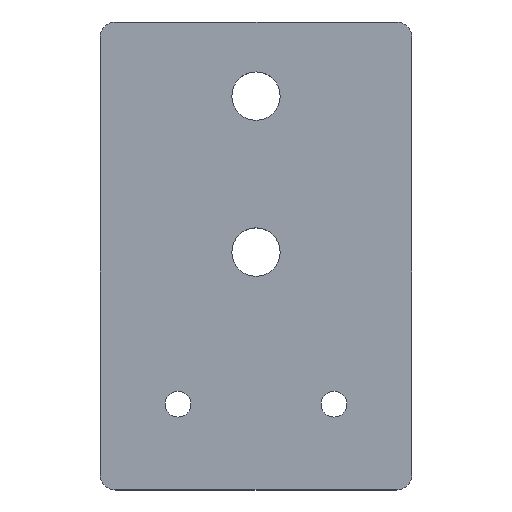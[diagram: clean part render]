
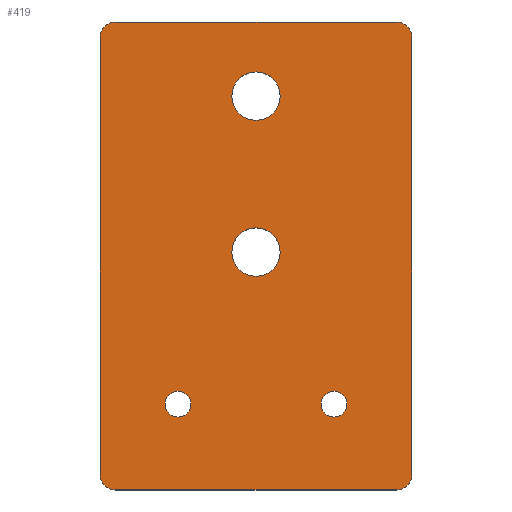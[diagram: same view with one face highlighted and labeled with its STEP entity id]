
A CAD part, top view. The second image highlights one B-rep face of the part: STEP entity #419.
In plain terms, the highlighted planar face has unit normal (0, 0, 1).
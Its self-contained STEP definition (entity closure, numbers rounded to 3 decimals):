
#5 = DIRECTION ( 'NONE',  ( 0., 0., -1. ) ) ;
#10 = CARTESIAN_POINT ( 'NONE',  ( 0., 50.5, 4. ) ) ;
#11 = CIRCLE ( 'NONE', #387, 2. ) ;
#18 = ORIENTED_EDGE ( 'NONE', *, *, #571, .T. ) ;
#20 = EDGE_CURVE ( 'NONE', #259, #541, #372, .T. ) ;
#22 = FACE_BOUND ( 'NONE', #131, .T. ) ;
#24 = CARTESIAN_POINT ( 'NONE',  ( 0., 0., 4. ) ) ;
#25 = EDGE_LOOP ( 'NONE', ( #18, #428 ) ) ;
#28 = DIRECTION ( 'NONE',  ( 0., 0., 1. ) ) ;
#32 = AXIS2_PLACEMENT_3D ( 'NONE', #10, #255, #421 ) ;
#39 = EDGE_CURVE ( 'NONE', #576, #144, #526, .T. ) ;
#47 = CARTESIAN_POINT ( 'NONE',  ( -18., 58., 4. ) ) ;
#53 = CARTESIAN_POINT ( 'NONE',  ( 11.65, 11., 4. ) ) ;
#54 = AXIS2_PLACEMENT_3D ( 'NONE', #657, #191, #609 ) ;
#56 = CARTESIAN_POINT ( 'NONE',  ( 3.1, 50.5, 4. ) ) ;
#67 = AXIS2_PLACEMENT_3D ( 'NONE', #283, #443, #644 ) ;
#68 = ORIENTED_EDGE ( 'NONE', *, *, #228, .T. ) ;
#69 = FACE_BOUND ( 'NONE', #201, .T. ) ;
#86 = ORIENTED_EDGE ( 'NONE', *, *, #506, .T. ) ;
#89 = EDGE_LOOP ( 'NONE', ( #565, #86, #187, #223, #503, #406, #434, #342 ) ) ;
#98 = AXIS2_PLACEMENT_3D ( 'NONE', #24, #28, #440 ) ;
#103 = VERTEX_POINT ( 'NONE', #552 ) ;
#109 = CARTESIAN_POINT ( 'NONE',  ( -18., 2., 4. ) ) ;
#119 = CARTESIAN_POINT ( 'NONE',  ( 10., 11., 4. ) ) ;
#127 = VECTOR ( 'NONE', #183, 1000. ) ;
#128 = LINE ( 'NONE', #377, #629 ) ;
#131 = EDGE_LOOP ( 'NONE', ( #660, #184 ) ) ;
#140 = VERTEX_POINT ( 'NONE', #673 ) ;
#144 = VERTEX_POINT ( 'NONE', #512 ) ;
#155 = ORIENTED_EDGE ( 'NONE', *, *, #527, .T. ) ;
#162 = DIRECTION ( 'NONE',  ( 1., 0., 0. ) ) ;
#171 = EDGE_CURVE ( 'NONE', #144, #177, #366, .T. ) ;
#176 = DIRECTION ( 'NONE',  ( 0., 0., -1. ) ) ;
#177 = VERTEX_POINT ( 'NONE', #265 ) ;
#178 = LINE ( 'NONE', #394, #127 ) ;
#183 = DIRECTION ( 'NONE',  ( 1., 0., 0. ) ) ;
#184 = ORIENTED_EDGE ( 'NONE', *, *, #517, .F. ) ;
#185 = DIRECTION ( 'NONE',  ( 1., 0., 0. ) ) ;
#187 = ORIENTED_EDGE ( 'NONE', *, *, #272, .T. ) ;
#188 = AXIS2_PLACEMENT_3D ( 'NONE', #431, #453, #236 ) ;
#191 = DIRECTION ( 'NONE',  ( 0., 0., 1. ) ) ;
#194 = DIRECTION ( 'NONE',  ( -1., 0., 0. ) ) ;
#196 = DIRECTION ( 'NONE',  ( 1., 0., 0. ) ) ;
#198 = CIRCLE ( 'NONE', #672, 1.65 ) ;
#201 = EDGE_LOOP ( 'NONE', ( #437, #535 ) ) ;
#202 = EDGE_CURVE ( 'NONE', #658, #637, #128, .T. ) ;
#203 = CARTESIAN_POINT ( 'NONE',  ( 0., 50.5, 4. ) ) ;
#206 = CARTESIAN_POINT ( 'NONE',  ( -20., 2., 4. ) ) ;
#210 = VERTEX_POINT ( 'NONE', #273 ) ;
#211 = DIRECTION ( 'NONE',  ( 0., 0., 1. ) ) ;
#213 = DIRECTION ( 'NONE',  ( 0., 0., 1. ) ) ;
#219 = CARTESIAN_POINT ( 'NONE',  ( 20., 0., 4. ) ) ;
#223 = ORIENTED_EDGE ( 'NONE', *, *, #39, .T. ) ;
#228 = EDGE_CURVE ( 'NONE', #281, #103, #586, .T. ) ;
#235 = DIRECTION ( 'NONE',  ( 0., 0., -1. ) ) ;
#236 = DIRECTION ( 'NONE',  ( -1., 0., 0. ) ) ;
#239 = CARTESIAN_POINT ( 'NONE',  ( 8.35, 11., 4. ) ) ;
#255 = DIRECTION ( 'NONE',  ( 0., 0., 1. ) ) ;
#258 = CARTESIAN_POINT ( 'NONE',  ( 18., 60., 4. ) ) ;
#259 = VERTEX_POINT ( 'NONE', #292 ) ;
#265 = CARTESIAN_POINT ( 'NONE',  ( 20., 58., 4. ) ) ;
#270 = DIRECTION ( 'NONE',  ( 0., 1., 0. ) ) ;
#271 = FACE_BOUND ( 'NONE', #652, .T. ) ;
#272 = EDGE_CURVE ( 'NONE', #210, #576, #178, .T. ) ;
#273 = CARTESIAN_POINT ( 'NONE',  ( -18., 0., 4. ) ) ;
#275 = VERTEX_POINT ( 'NONE', #239 ) ;
#276 = FACE_OUTER_BOUND ( 'NONE', #89, .T. ) ;
#281 = VERTEX_POINT ( 'NONE', #538 ) ;
#283 = CARTESIAN_POINT ( 'NONE',  ( 18., 58., 4. ) ) ;
#288 = AXIS2_PLACEMENT_3D ( 'NONE', #203, #213, #162 ) ;
#292 = CARTESIAN_POINT ( 'NONE',  ( -8.35, 11., 4. ) ) ;
#300 = VECTOR ( 'NONE', #531, 1000. ) ;
#304 = CARTESIAN_POINT ( 'NONE',  ( 0., 60., 4. ) ) ;
#307 = CARTESIAN_POINT ( 'NONE',  ( -20., 58., 4. ) ) ;
#336 = CIRCLE ( 'NONE', #32, 3.1 ) ;
#338 = EDGE_CURVE ( 'NONE', #638, #275, #198, .T. ) ;
#342 = ORIENTED_EDGE ( 'NONE', *, *, #348, .T. ) ;
#348 = EDGE_CURVE ( 'NONE', #140, #637, #11, .T. ) ;
#354 = DIRECTION ( 'NONE',  ( 1., 0., 0. ) ) ;
#356 = DIRECTION ( 'NONE',  ( 0., 0., -1. ) ) ;
#358 = CIRCLE ( 'NONE', #67, 2. ) ;
#364 = DIRECTION ( 'NONE',  ( 1., 0., 0. ) ) ;
#366 = LINE ( 'NONE', #219, #300 ) ;
#372 = CIRCLE ( 'NONE', #454, 1.65 ) ;
#377 = CARTESIAN_POINT ( 'NONE',  ( -20., 0., 4. ) ) ;
#386 = CIRCLE ( 'NONE', #188, 1.65 ) ;
#387 = AXIS2_PLACEMENT_3D ( 'NONE', #47, #521, #196 ) ;
#391 = DIRECTION ( 'NONE',  ( -1., 0., 0. ) ) ;
#394 = CARTESIAN_POINT ( 'NONE',  ( 0., 0., 4. ) ) ;
#395 = FACE_BOUND ( 'NONE', #25, .T. ) ;
#397 = EDGE_CURVE ( 'NONE', #177, #622, #358, .T. ) ;
#398 = EDGE_CURVE ( 'NONE', #541, #259, #668, .T. ) ;
#406 = ORIENTED_EDGE ( 'NONE', *, *, #397, .T. ) ;
#419 = ADVANCED_FACE ( 'NONE', ( #395, #69, #271, #22, #276 ), #488, .T. ) ;
#421 = DIRECTION ( 'NONE',  ( 1., 0., 0. ) ) ;
#422 = AXIS2_PLACEMENT_3D ( 'NONE', #513, #5, #364 ) ;
#423 = AXIS2_PLACEMENT_3D ( 'NONE', #109, #211, #426 ) ;
#426 = DIRECTION ( 'NONE',  ( 1., 0., 0. ) ) ;
#428 = ORIENTED_EDGE ( 'NONE', *, *, #338, .T. ) ;
#431 = CARTESIAN_POINT ( 'NONE',  ( 10., 11., 4. ) ) ;
#434 = ORIENTED_EDGE ( 'NONE', *, *, #450, .F. ) ;
#435 = AXIS2_PLACEMENT_3D ( 'NONE', #580, #176, #391 ) ;
#437 = ORIENTED_EDGE ( 'NONE', *, *, #398, .T. ) ;
#440 = DIRECTION ( 'NONE',  ( 1., 0., 0. ) ) ;
#443 = DIRECTION ( 'NONE',  ( 0., 0., 1. ) ) ;
#449 = CARTESIAN_POINT ( 'NONE',  ( -10., 11., 4. ) ) ;
#450 = EDGE_CURVE ( 'NONE', #140, #622, #451, .T. ) ;
#451 = LINE ( 'NONE', #304, #614 ) ;
#453 = DIRECTION ( 'NONE',  ( 0., 0., -1. ) ) ;
#454 = AXIS2_PLACEMENT_3D ( 'NONE', #449, #459, #194 ) ;
#459 = DIRECTION ( 'NONE',  ( 0., 0., -1. ) ) ;
#488 = PLANE ( 'NONE',  #98 ) ;
#503 = ORIENTED_EDGE ( 'NONE', *, *, #171, .T. ) ;
#506 = EDGE_CURVE ( 'NONE', #658, #210, #630, .T. ) ;
#507 = CIRCLE ( 'NONE', #422, 3.1 ) ;
#512 = CARTESIAN_POINT ( 'NONE',  ( 20., 2., 4. ) ) ;
#513 = CARTESIAN_POINT ( 'NONE',  ( 0., 30.5, 4. ) ) ;
#515 = CARTESIAN_POINT ( 'NONE',  ( -11.65, 11., 4. ) ) ;
#517 = EDGE_CURVE ( 'NONE', #550, #523, #336, .T. ) ;
#521 = DIRECTION ( 'NONE',  ( 0., 0., 1. ) ) ;
#523 = VERTEX_POINT ( 'NONE', #558 ) ;
#526 = CIRCLE ( 'NONE', #54, 2. ) ;
#527 = EDGE_CURVE ( 'NONE', #103, #281, #507, .T. ) ;
#531 = DIRECTION ( 'NONE',  ( 0., 1., 0. ) ) ;
#533 = CARTESIAN_POINT ( 'NONE',  ( 0., 30.5, 4. ) ) ;
#535 = ORIENTED_EDGE ( 'NONE', *, *, #20, .T. ) ;
#538 = CARTESIAN_POINT ( 'NONE',  ( -3.1, 30.5, 4. ) ) ;
#541 = VERTEX_POINT ( 'NONE', #515 ) ;
#544 = CARTESIAN_POINT ( 'NONE',  ( 18., 0., 4. ) ) ;
#550 = VERTEX_POINT ( 'NONE', #56 ) ;
#552 = CARTESIAN_POINT ( 'NONE',  ( 3.1, 30.5, 4. ) ) ;
#556 = EDGE_CURVE ( 'NONE', #523, #550, #655, .T. ) ;
#558 = CARTESIAN_POINT ( 'NONE',  ( -3.1, 50.5, 4. ) ) ;
#565 = ORIENTED_EDGE ( 'NONE', *, *, #202, .F. ) ;
#571 = EDGE_CURVE ( 'NONE', #275, #638, #386, .T. ) ;
#576 = VERTEX_POINT ( 'NONE', #544 ) ;
#580 = CARTESIAN_POINT ( 'NONE',  ( -10., 11., 4. ) ) ;
#586 = CIRCLE ( 'NONE', #669, 3.1 ) ;
#609 = DIRECTION ( 'NONE',  ( 1., 0., 0. ) ) ;
#614 = VECTOR ( 'NONE', #185, 1000. ) ;
#622 = VERTEX_POINT ( 'NONE', #258 ) ;
#629 = VECTOR ( 'NONE', #270, 1000. ) ;
#630 = CIRCLE ( 'NONE', #423, 2. ) ;
#637 = VERTEX_POINT ( 'NONE', #307 ) ;
#638 = VERTEX_POINT ( 'NONE', #53 ) ;
#644 = DIRECTION ( 'NONE',  ( 1., 0., 0. ) ) ;
#652 = EDGE_LOOP ( 'NONE', ( #68, #155 ) ) ;
#655 = CIRCLE ( 'NONE', #288, 3.1 ) ;
#657 = CARTESIAN_POINT ( 'NONE',  ( 18., 2., 4. ) ) ;
#658 = VERTEX_POINT ( 'NONE', #206 ) ;
#659 = DIRECTION ( 'NONE',  ( -1., 0., 0. ) ) ;
#660 = ORIENTED_EDGE ( 'NONE', *, *, #556, .F. ) ;
#668 = CIRCLE ( 'NONE', #435, 1.65 ) ;
#669 = AXIS2_PLACEMENT_3D ( 'NONE', #533, #235, #354 ) ;
#672 = AXIS2_PLACEMENT_3D ( 'NONE', #119, #356, #659 ) ;
#673 = CARTESIAN_POINT ( 'NONE',  ( -18., 60., 4. ) ) ;
